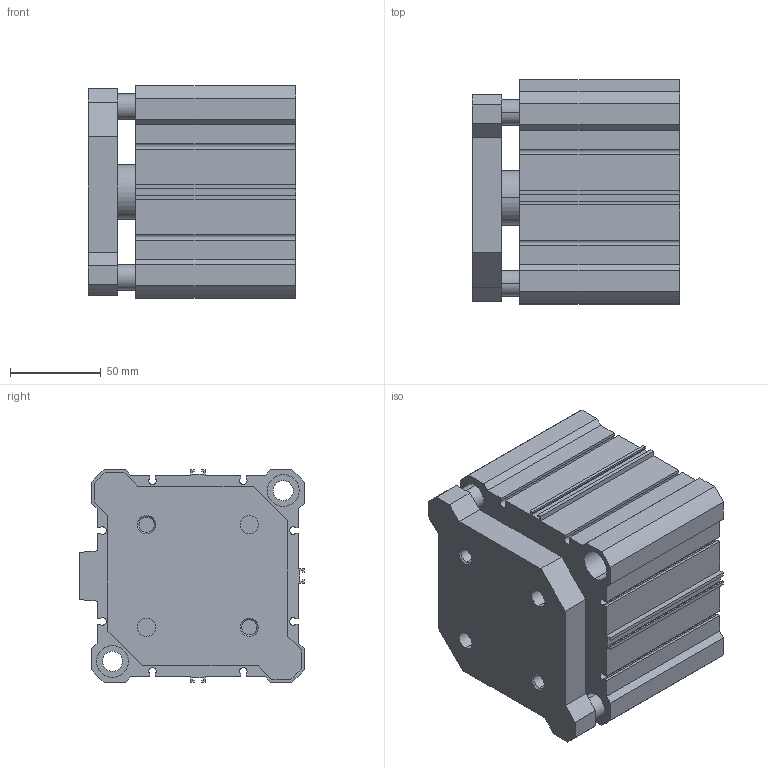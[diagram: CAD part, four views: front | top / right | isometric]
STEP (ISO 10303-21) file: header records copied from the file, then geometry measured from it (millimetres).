
FILE_DESCRIPTION (( 'STEP AP203' ), '1' );
FILE_NAME ('CCMG100-25.STEP', '2020-04-01T18:53:52', ( '' ), ( '' ), 'SwSTEP 2.0', 'SolidWorks 2019', '' );
FILE_SCHEMA (( 'CONFIG_CONTROL_DESIGN' ));
Length unit declared in the file: millimetre
Products named in the file (1): CCMG100-25
Bounding box: 114 x 123.5 x 117 mm (x, y, z)
Volume: 1086190 mm3; surface area: 174370.3 mm2
Topology: 2 solids, 2 shells, 194 faces, 518 edges, 338 vertices
Faces by surface type: plane 114, cylinder 64, cone 16
Entity records: 6105 total; most frequent: CARTESIAN_POINT 1047, DIRECTION 1044, ORIENTED_EDGE 1028, EDGE_CURVE 514, VECTOR 374, LINE 374, VERTEX_POINT 338, AXIS2_PLACEMENT_3D 335
